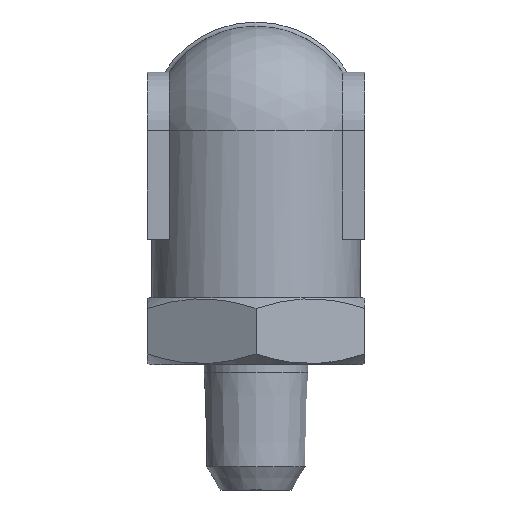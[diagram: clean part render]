
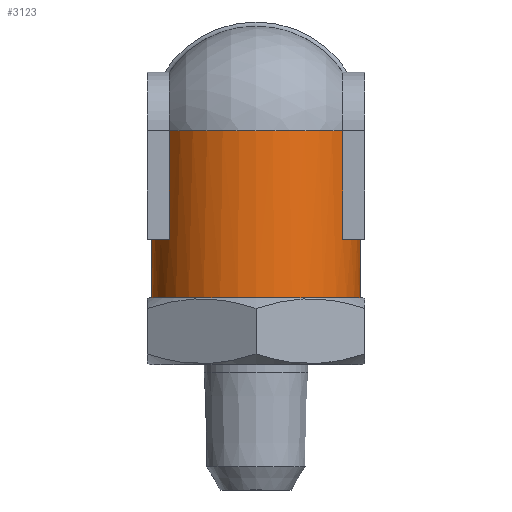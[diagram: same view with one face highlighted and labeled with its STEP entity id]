
A CAD part, left-side view. The second image highlights one B-rep face of the part: STEP entity #3123.
In plain terms, the highlighted cylindrical face has radius 6.25 mm (diameter 12.5 mm), a full revolution.
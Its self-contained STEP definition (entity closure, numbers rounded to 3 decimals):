
#25=VECTOR('',#2170,1.);
#26=VECTOR('',#2173,1.);
#27=VECTOR('',#2176,1.);
#28=VECTOR('',#2179,1.);
#65=LINE('',#2509,#25);
#66=LINE('',#2513,#26);
#67=LINE('',#2517,#27);
#68=LINE('',#2520,#28);
#105=ELLIPSE('',#2951,8.839,6.25);
#1308=CYLINDRICAL_SURFACE('',#2949,6.25);
#1370=ORIENTED_EDGE('',*,*,#1740,.F.);
#1371=ORIENTED_EDGE('',*,*,#1741,.F.);
#1372=ORIENTED_EDGE('',*,*,#1742,.F.);
#1373=ORIENTED_EDGE('',*,*,#1743,.F.);
#1374=ORIENTED_EDGE('',*,*,#1744,.F.);
#1375=ORIENTED_EDGE('',*,*,#1745,.T.);
#1376=ORIENTED_EDGE('',*,*,#1746,.F.);
#1377=ORIENTED_EDGE('',*,*,#1747,.F.);
#1378=ORIENTED_EDGE('',*,*,#1748,.F.);
#1586=CIRCLE('',#2950,6.25);
#1587=CIRCLE('',#2952,6.25);
#1588=CIRCLE('',#2953,6.25);
#1589=CIRCLE('',#2954,6.25);
#1647=VERTEX_POINT('',#2503);
#1648=VERTEX_POINT('',#2505);
#1649=VERTEX_POINT('',#2506);
#1650=VERTEX_POINT('',#2508);
#1651=VERTEX_POINT('',#2510);
#1652=VERTEX_POINT('',#2512);
#1653=VERTEX_POINT('',#2514);
#1654=VERTEX_POINT('',#2516);
#1655=VERTEX_POINT('',#2518);
#1740=EDGE_CURVE('',#1647,#1647,#1586,.T.);
#1741=EDGE_CURVE('',#1648,#1649,#105,.T.);
#1742=EDGE_CURVE('',#1650,#1648,#65,.T.);
#1743=EDGE_CURVE('',#1651,#1650,#1587,.T.);
#1744=EDGE_CURVE('',#1652,#1651,#66,.T.);
#1745=EDGE_CURVE('',#1652,#1653,#1588,.T.);
#1746=EDGE_CURVE('',#1654,#1653,#67,.T.);
#1747=EDGE_CURVE('',#1655,#1654,#1589,.T.);
#1748=EDGE_CURVE('',#1649,#1655,#68,.T.);
#1869=EDGE_LOOP('',(#1370));
#1870=EDGE_LOOP('',(#1371,#1372,#1373,#1374,#1375,#1376,#1377,#1378));
#2000=FACE_BOUND('',#1869,.T.);
#2001=FACE_BOUND('',#1870,.T.);
#2164=DIRECTION('',(0.,1.,0.));
#2165=DIRECTION('',(1.,0.,0.));
#2166=DIRECTION('',(0.,-1.,0.));
#2167=DIRECTION('',(0.,0.,-6.25));
#2168=DIRECTION('',(0.707,0.707,0.));
#2169=DIRECTION('',(0.707,-0.707,0.));
#2170=DIRECTION('',(0.,3.,0.));
#2171=DIRECTION('',(0.,1.,0.));
#2172=DIRECTION('',(0.,0.,-6.25));
#2173=DIRECTION('',(0.,-6.5,0.));
#2174=DIRECTION('',(0.,-1.,0.));
#2175=DIRECTION('',(0.,0.,-6.25));
#2176=DIRECTION('',(0.,6.5,0.));
#2177=DIRECTION('',(0.,1.,0.));
#2178=DIRECTION('',(0.,0.,-6.25));
#2179=DIRECTION('',(0.,-3.,0.));
#2502=CARTESIAN_POINT('',(1.572,-12.553,0.));
#2503=CARTESIAN_POINT('',(7.822,-12.553,0.));
#2504=CARTESIAN_POINT('',(1.572,-12.553,0.));
#2505=CARTESIAN_POINT('',(5.072,-6.053,5.178));
#2506=CARTESIAN_POINT('',(5.072,-6.053,-5.178));
#2507=CARTESIAN_POINT('',(1.572,-2.553,0.));
#2508=CARTESIAN_POINT('',(5.072,-9.053,5.178));
#2509=CARTESIAN_POINT('',(5.072,-9.053,5.178));
#2510=CARTESIAN_POINT('',(-1.928,-9.053,5.178));
#2511=CARTESIAN_POINT('',(1.572,-9.053,0.));
#2512=CARTESIAN_POINT('',(-1.928,-2.553,5.178));
#2513=CARTESIAN_POINT('',(-1.928,-2.553,5.178));
#2514=CARTESIAN_POINT('',(-1.928,-2.553,-5.178));
#2515=CARTESIAN_POINT('',(1.572,-2.553,0.));
#2516=CARTESIAN_POINT('',(-1.928,-9.053,-5.178));
#2517=CARTESIAN_POINT('',(-1.928,-9.053,-5.178));
#2518=CARTESIAN_POINT('',(5.072,-9.053,-5.178));
#2519=CARTESIAN_POINT('',(1.572,-9.053,0.));
#2520=CARTESIAN_POINT('',(5.072,-6.053,-5.178));
#2949=AXIS2_PLACEMENT_3D('',#2502,#2164,#2165);
#2950=AXIS2_PLACEMENT_3D('',#2504,#2166,#2167);
#2951=AXIS2_PLACEMENT_3D('',#2507,#2168,#2169);
#2952=AXIS2_PLACEMENT_3D('',#2511,#2171,#2172);
#2953=AXIS2_PLACEMENT_3D('',#2515,#2174,#2175);
#2954=AXIS2_PLACEMENT_3D('',#2519,#2177,#2178);
#3123=ADVANCED_FACE('',(#2000,#2001),#1308,.T.);
